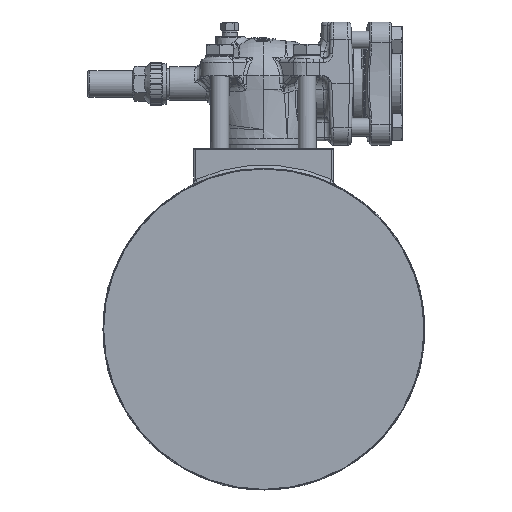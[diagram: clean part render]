
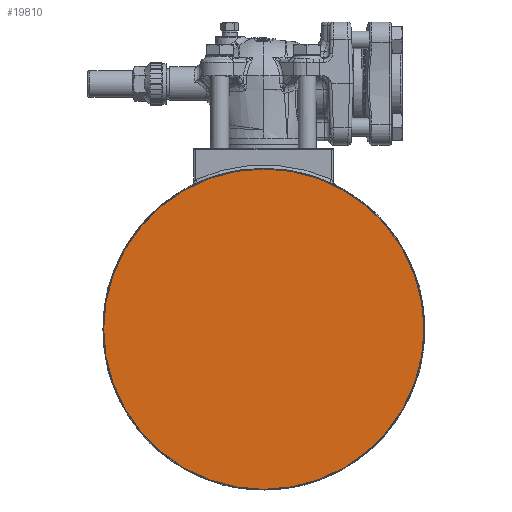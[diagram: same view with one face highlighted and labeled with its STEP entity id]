
A CAD part, left-side view. The second image highlights one B-rep face of the part: STEP entity #19810.
In plain terms, the highlighted planar face has unit normal (-1, 0, 0) as drawn and (0, 1, 0) by its records, which use the part's own axes.
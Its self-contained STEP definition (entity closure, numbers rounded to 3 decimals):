
#14341=FACE_OUTER_BOUND('',#27809,.T.);
#19810=ADVANCED_FACE('',(#14341),#20532,.F.);
#20532=PLANE('',#53650);
#27809=EDGE_LOOP('',(#39611));
#39611=ORIENTED_EDGE('',*,*,#49213,.T.);
#43312=VERTEX_POINT('',#113655);
#49213=EDGE_CURVE('',#43312,#43312,#50682,.T.);
#50682=CIRCLE('',#53649,142.99);
#53649=AXIS2_PLACEMENT_3D('',#113654,#61781,#61782);
#53650=AXIS2_PLACEMENT_3D('',#113656,#61783,#61784);
#61781=DIRECTION('',(0.,1.,0.));
#61782=DIRECTION('',(0.,0.,-1.));
#61783=DIRECTION('',(0.,-1.,0.));
#61784=DIRECTION('',(1.,0.,0.003));
#113654=CARTESIAN_POINT('',(0.,1.,0.));
#113655=CARTESIAN_POINT('',(0.,1.,-142.99));
#113656=CARTESIAN_POINT('',(-200.764,1.,-223.515));
